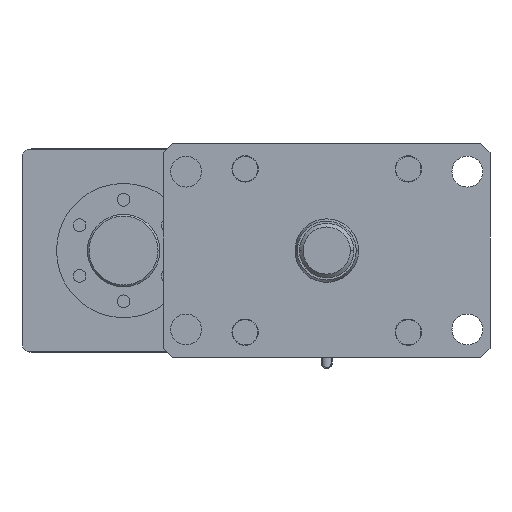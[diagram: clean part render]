
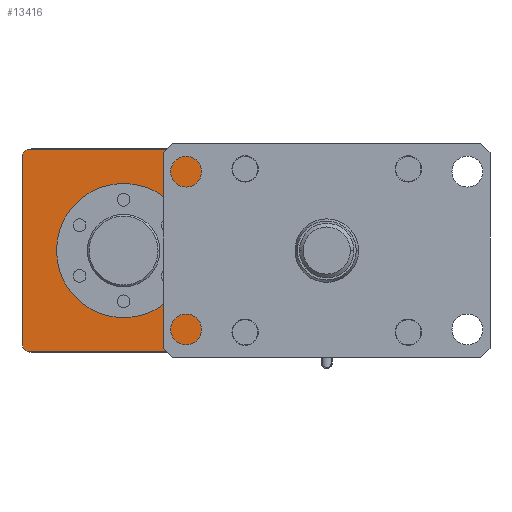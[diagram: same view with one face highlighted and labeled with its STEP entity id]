
A CAD part, front view. The second image highlights one B-rep face of the part: STEP entity #13416.
In plain terms, the highlighted planar face has unit normal (0, -1, 0).
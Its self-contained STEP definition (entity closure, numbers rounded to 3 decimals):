
#559 = ORIENTED_EDGE ( 'NONE', *, *, #14815, .T. ) ;
#587 = EDGE_CURVE ( 'NONE', #15606, #13268, #9714, .T. ) ;
#708 = CARTESIAN_POINT ( 'NONE',  ( -56.2, 0., 56. ) ) ;
#801 = VERTEX_POINT ( 'NONE', #1562 ) ;
#871 = CIRCLE ( 'NONE', #14254, 37. ) ;
#920 = VERTEX_POINT ( 'NONE', #13145 ) ;
#956 = DIRECTION ( 'NONE',  ( 0., -1., 0. ) ) ;
#1047 = DIRECTION ( 'NONE',  ( -1., 0., 0. ) ) ;
#1229 = ORIENTED_EDGE ( 'NONE', *, *, #3679, .T. ) ;
#1404 = CARTESIAN_POINT ( 'NONE',  ( -56.2, 0., 52.4 ) ) ;
#1469 = LINE ( 'NONE', #3752, #14288 ) ;
#1507 = CARTESIAN_POINT ( 'NONE',  ( -167.8, 0., 56. ) ) ;
#1533 = CARTESIAN_POINT ( 'NONE',  ( -112., 0., 0. ) ) ;
#1562 = CARTESIAN_POINT ( 'NONE',  ( -167.8, 0., -52.4 ) ) ;
#1809 = DIRECTION ( 'NONE',  ( 0., -1., 0. ) ) ;
#1951 = DIRECTION ( 'NONE',  ( 0., 0., 1. ) ) ;
#2386 = EDGE_CURVE ( 'NONE', #920, #14467, #14745, .T. ) ;
#2434 = EDGE_CURVE ( 'NONE', #10448, #9961, #4496, .T. ) ;
#2443 = AXIS2_PLACEMENT_3D ( 'NONE', #8399, #956, #9627 ) ;
#3395 = DIRECTION ( 'NONE',  ( 0., -1., 0. ) ) ;
#3679 = EDGE_CURVE ( 'NONE', #11363, #4823, #14323, .T. ) ;
#3752 = CARTESIAN_POINT ( 'NONE',  ( -168., 0., 55.8 ) ) ;
#4390 = CARTESIAN_POINT ( 'NONE',  ( -164.4, 0., 55.8 ) ) ;
#4490 = DIRECTION ( 'NONE',  ( -1., 0., 0. ) ) ;
#4496 = CIRCLE ( 'NONE', #10229, 5. ) ;
#4823 = VERTEX_POINT ( 'NONE', #7130 ) ;
#4845 = VECTOR ( 'NONE', #6555, 1000. ) ;
#4930 = VECTOR ( 'NONE', #8969, 1000. ) ;
#5274 = AXIS2_PLACEMENT_3D ( 'NONE', #1533, #11905, #4490 ) ;
#5296 = EDGE_CURVE ( 'NONE', #9961, #15606, #1469, .T. ) ;
#5362 = FACE_OUTER_BOUND ( 'NONE', #12541, .T. ) ;
#5760 = AXIS2_PLACEMENT_3D ( 'NONE', #9267, #14186, #11769 ) ;
#6555 = DIRECTION ( 'NONE',  ( 1., 0., 0. ) ) ;
#7130 = CARTESIAN_POINT ( 'NONE',  ( -56.2, 0., -55.8 ) ) ;
#7138 = ORIENTED_EDGE ( 'NONE', *, *, #8046, .T. ) ;
#7213 = VECTOR ( 'NONE', #1951, 1000. ) ;
#7441 = ORIENTED_EDGE ( 'NONE', *, *, #2434, .T. ) ;
#7746 = ORIENTED_EDGE ( 'NONE', *, *, #587, .T. ) ;
#7859 = CARTESIAN_POINT ( 'NONE',  ( -59.6, 0., 55.8 ) ) ;
#8046 = EDGE_CURVE ( 'NONE', #4823, #10448, #10878, .T. ) ;
#8399 = CARTESIAN_POINT ( 'NONE',  ( -163., 0., -51. ) ) ;
#8480 = DIRECTION ( 'NONE',  ( 0., -1., 0. ) ) ;
#8659 = FACE_BOUND ( 'NONE', #13638, .T. ) ;
#8969 = DIRECTION ( 'NONE',  ( 0., 0., -1. ) ) ;
#9250 = CARTESIAN_POINT ( 'NONE',  ( -112., 0., 0. ) ) ;
#9267 = CARTESIAN_POINT ( 'NONE',  ( -168., 0., 56. ) ) ;
#9379 = CARTESIAN_POINT ( 'NONE',  ( -164.4, 0., -55.8 ) ) ;
#9454 = CARTESIAN_POINT ( 'NONE',  ( -112., 0., 37. ) ) ;
#9624 = EDGE_CURVE ( 'NONE', #801, #11363, #10622, .T. ) ;
#9627 = DIRECTION ( 'NONE',  ( -1., 0., 0. ) ) ;
#9714 = CIRCLE ( 'NONE', #15826, 5. ) ;
#9847 = ORIENTED_EDGE ( 'NONE', *, *, #5296, .T. ) ;
#9961 = VERTEX_POINT ( 'NONE', #7859 ) ;
#10229 = AXIS2_PLACEMENT_3D ( 'NONE', #10811, #3395, #12066 ) ;
#10296 = ORIENTED_EDGE ( 'NONE', *, *, #9624, .T. ) ;
#10448 = VERTEX_POINT ( 'NONE', #1404 ) ;
#10493 = DIRECTION ( 'NONE',  ( -1., 0., 0. ) ) ;
#10511 = PLANE ( 'NONE',  #5760 ) ;
#10622 = CIRCLE ( 'NONE', #2443, 5. ) ;
#10811 = CARTESIAN_POINT ( 'NONE',  ( -61., 0., 51. ) ) ;
#10878 = LINE ( 'NONE', #708, #7213 ) ;
#11119 = LINE ( 'NONE', #1507, #4930 ) ;
#11363 = VERTEX_POINT ( 'NONE', #9379 ) ;
#11436 = CARTESIAN_POINT ( 'NONE',  ( -167.8, 0., 52.4 ) ) ;
#11769 = DIRECTION ( 'NONE',  ( -1., 0., 0. ) ) ;
#11779 = ORIENTED_EDGE ( 'NONE', *, *, #13964, .F. ) ;
#11905 = DIRECTION ( 'NONE',  ( 0., -1., 0. ) ) ;
#12066 = DIRECTION ( 'NONE',  ( -1., 0., 0. ) ) ;
#12541 = EDGE_LOOP ( 'NONE', ( #7138, #7441, #9847, #7746, #559, #10296, #1229 ) ) ;
#13145 = CARTESIAN_POINT ( 'NONE',  ( -112., 0., -37. ) ) ;
#13268 = VERTEX_POINT ( 'NONE', #11436 ) ;
#13416 = ADVANCED_FACE ( 'NONE', ( #5362, #8659 ), #10511, .F. ) ;
#13638 = EDGE_LOOP ( 'NONE', ( #11779, #15681 ) ) ;
#13949 = CARTESIAN_POINT ( 'NONE',  ( -168., 0., -55.8 ) ) ;
#13964 = EDGE_CURVE ( 'NONE', #14467, #920, #871, .T. ) ;
#14186 = DIRECTION ( 'NONE',  ( 0., 1., 0. ) ) ;
#14254 = AXIS2_PLACEMENT_3D ( 'NONE', #9250, #1809, #10493 ) ;
#14288 = VECTOR ( 'NONE', #14889, 1000. ) ;
#14323 = LINE ( 'NONE', #13949, #4845 ) ;
#14467 = VERTEX_POINT ( 'NONE', #9454 ) ;
#14745 = CIRCLE ( 'NONE', #5274, 37. ) ;
#14815 = EDGE_CURVE ( 'NONE', #13268, #801, #11119, .T. ) ;
#14889 = DIRECTION ( 'NONE',  ( -1., 0., 0. ) ) ;
#15606 = VERTEX_POINT ( 'NONE', #4390 ) ;
#15681 = ORIENTED_EDGE ( 'NONE', *, *, #2386, .F. ) ;
#15826 = AXIS2_PLACEMENT_3D ( 'NONE', #15904, #8480, #1047 ) ;
#15904 = CARTESIAN_POINT ( 'NONE',  ( -163., 0., 51. ) ) ;
